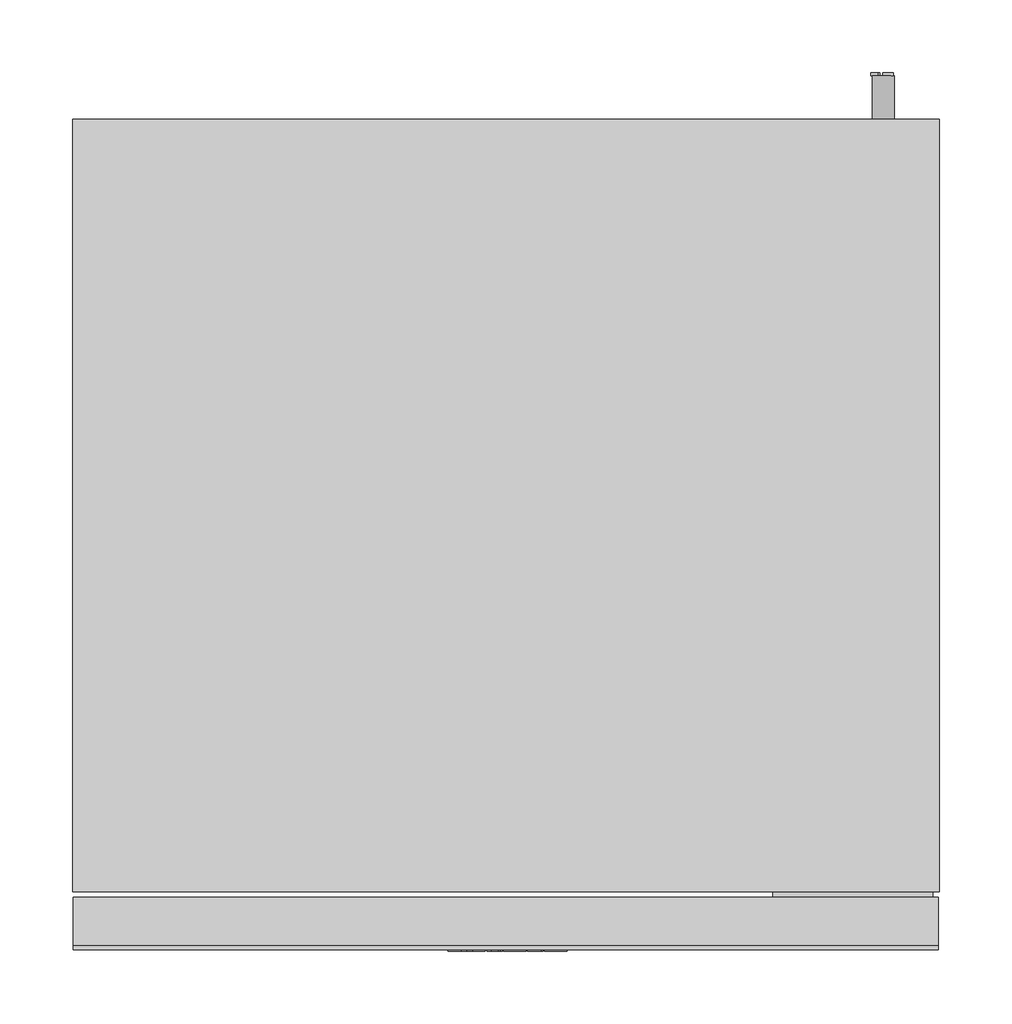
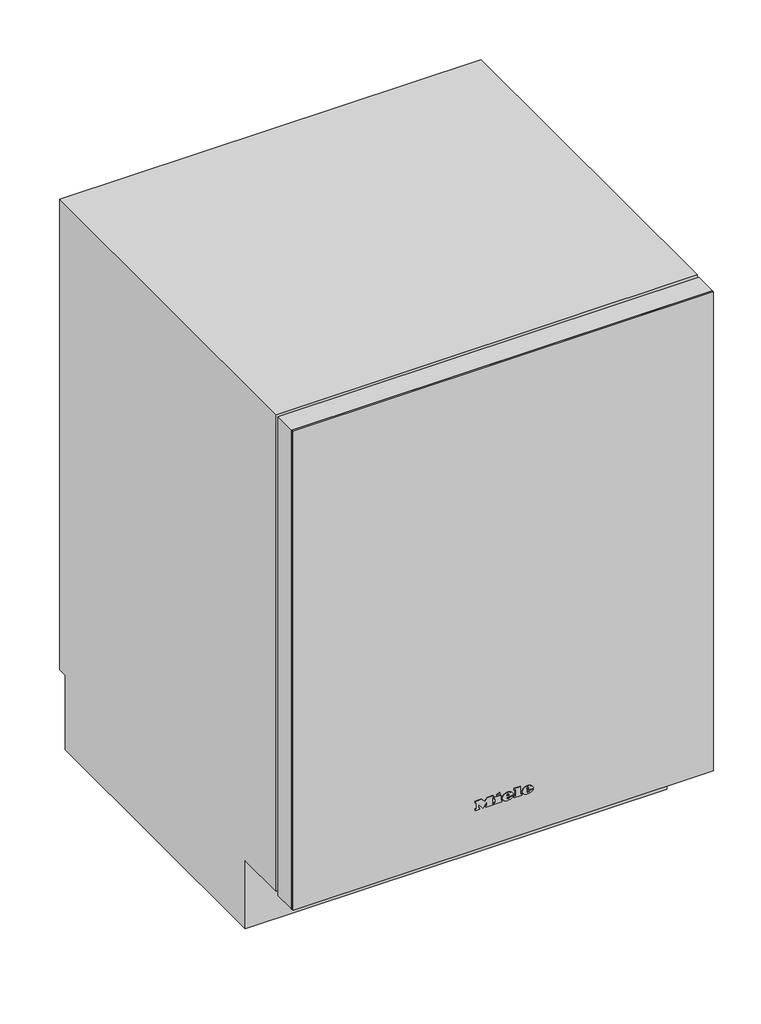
# Not in any storey: 1 proxy.
"""IFC4 building model written with IfcOpenShell, lengths in millimetres."""

from ifc_helpers import new_model, si_unit, origin, place, context, project, spatial, transform, mapped, element, save
from components import specialty_equipment_586057da

model = new_model("IFC4")

# Units and contexts
model_context = context("Model", 3, world=origin())
ifc_project = project(units=[si_unit("LENGTHUNIT", "METRE", prefix="MILLI")], contexts=[model_context])

# Site, building
site = spatial("IfcSite", under=ifc_project)
building = spatial("IfcBuilding", under=site)

# Proxy
placement = place(None, origin())
specialty_equipment_shape = specialty_equipment_586057da(model_context)
element("IfcBuildingElementProxy", 1, Name="10028650_USA_KWT6312UGS : 36631200_USA_10028650_KWT6312UGS", ObjectType="10028650_USA_KWT6312UGS : 36631200_USA_10028650_KWT6312UGS", at=placement, inside=building, context=model_context, shape_type="MappedRepresentation", body=[
    mapped(specialty_equipment_shape, transform((0.0, 0.0, 0.0), x_axis=(1.0, 0.0, 0.0), y_axis=(0.0, 1.0, 0.0), z_axis=(0.0, 0.0, 1.0))),
])

save(model, "model.ifc")
